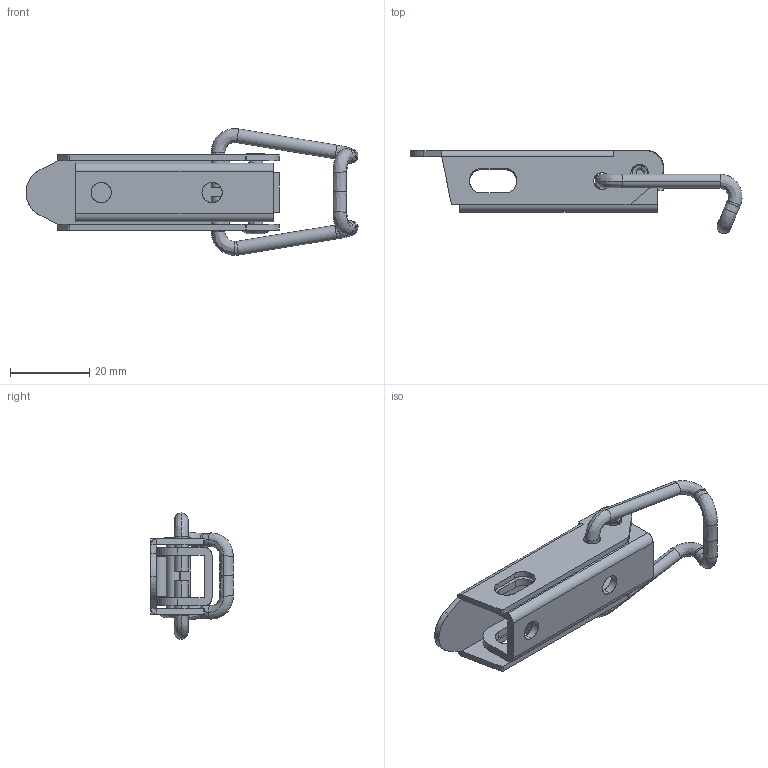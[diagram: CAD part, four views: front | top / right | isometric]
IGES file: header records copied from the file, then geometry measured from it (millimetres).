
Start section: SolidWorks IGES FILE using analytic representation for surfaces
Global section: file name: C:\Documents and Settings\brechard\Bureau\GO 566\GO 566.IGS; native system: SolidWorks 2001Plus by SolidWorks Corporation; preprocessor: Version 5.3; author: brechard; date: 050126.101154; units: millimetre
Bounding box: 83.86 x 20.9 x 32 mm (x, y, z)
Surface area: 10103.7 mm2 (no closed solid volume)
Topology: 0 solids, 0 shells, 158 faces, 2228 edges, 2228 vertices
Faces by surface type: bspline 89, revolution 69
